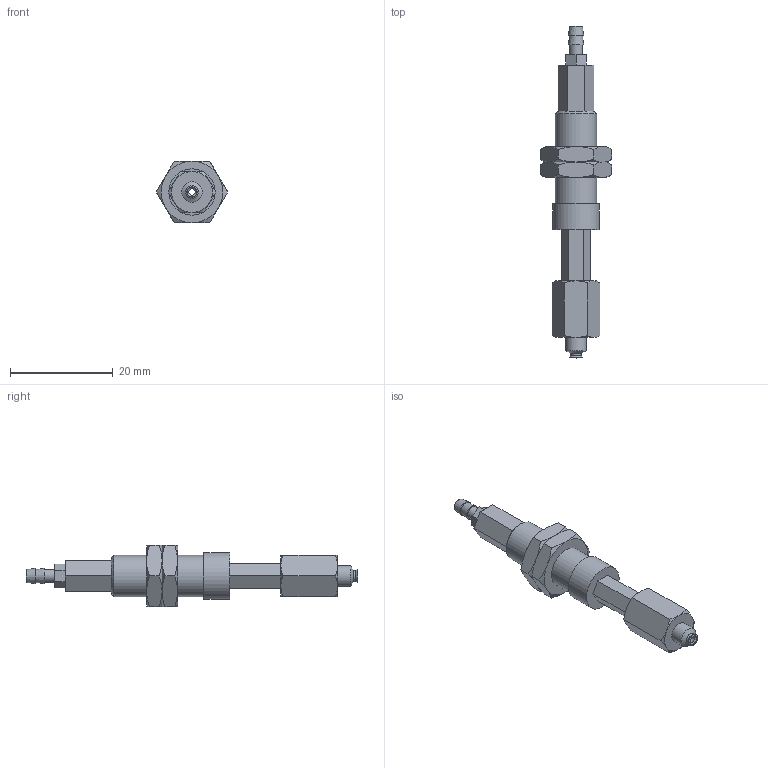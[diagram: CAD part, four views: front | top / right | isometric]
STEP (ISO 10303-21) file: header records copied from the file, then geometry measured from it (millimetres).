
FILE_DESCRIPTION(('STEP AP203'),'1');
FILE_NAME('-T.stp','2025-08-27T02:35:27',(' '),(' '),'Spatial InterOp 3D',' ',' ');
FILE_SCHEMA(('CONFIG_CONTROL_DESIGN'));
Length unit declared in the file: millimetre
Products named in the file (7): BNABPFTH-2A-10-※-T; ADAPTER; NAPFTH-2A-10-MBODY; Nut-2A-10-h; NAPFTH-2A-10-FBODY; BPFG-2A-※; T (2)
Assembly tree (7 placements, depth 2):
  BNABPFTH-2A-10-※-T
    ADAPTER
    NAPFTH-2A-10-MBODY
    Nut-2A-10-h  x2
    NAPFTH-2A-10-FBODY
    BPFG-2A-※
    T (2)
Bounding box: 13.86 x 64.6 x 12 mm (x, y, z)
Volume: 2823.2 mm3; surface area: 3433.3 mm2
Topology: 7 solids, 7 shells, 139 faces, 295 edges, 180 vertices
Faces by surface type: plane 66, cone 49, cylinder 16, torus 7, bspline 1
Full cylindrical faces by diameter (mm): 1.2 x4, 2 x2, 2.459 x1, 2.5 x1, 3 x3, 4 x1, 7.188 x2, 8 x1, 9 x1
Entity records: 3449 total; most frequent: CARTESIAN_POINT 791, DIRECTION 478, ORIENTED_EDGE 412, EDGE_CURVE 206, AXIS2_PLACEMENT_3D 197, EDGE_LOOP 172, VERTEX_POINT 146, FACE_OUTER_BOUND 139
